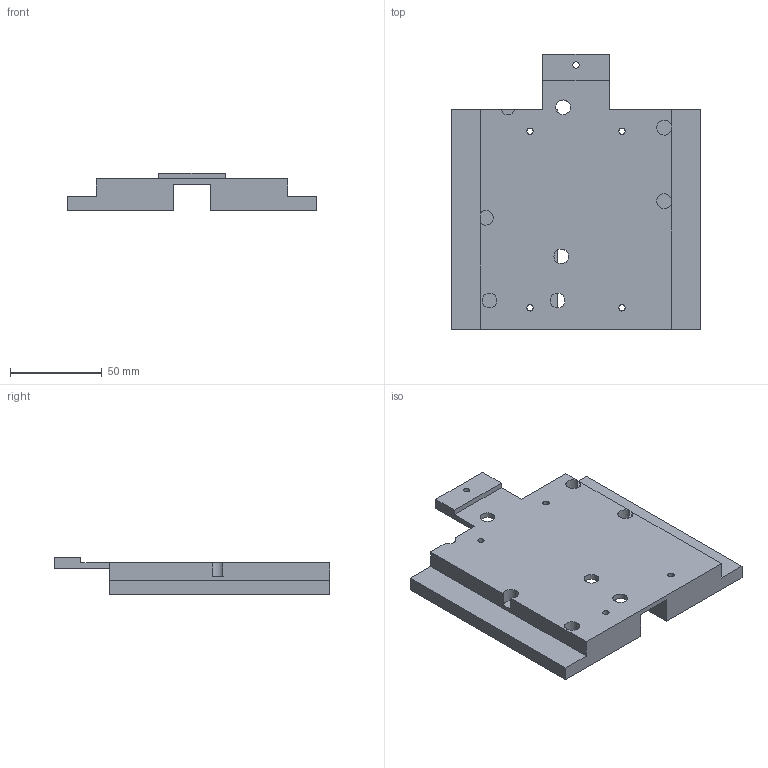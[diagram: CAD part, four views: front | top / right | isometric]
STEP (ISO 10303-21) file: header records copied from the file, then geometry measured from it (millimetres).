
FILE_DESCRIPTION(('Open CASCADE Model'),'2;1');
FILE_NAME('Open CASCADE Shape Model','2026-10-05T13:24:18',('Author'),( 'Open CASCADE'),'Open CASCADE STEP processor 7.8','Open CASCADE 7.8' ,'Unknown');
FILE_SCHEMA(('AUTOMOTIVE_DESIGN { 1 0 10303 214 1 1 1 1 }'));
Length unit declared in the file: millimetre
Products named in the file (1): Open CASCADE STEP translator 7.8 2
Bounding box: 135.6 x 149.6 x 20.4 mm (x, y, z)
Volume: 213216.8 mm3; surface area: 47676.5 mm2
Topology: 1 solids, 1 shells, 69 faces, 195 edges, 130 vertices
Faces by surface type: plane 56, cylinder 13
Full cylindrical faces by diameter (mm): 3.4 x5, 8 x4
Entity records: 4795 total; most frequent: CARTESIAN_POINT 950, DIRECTION 682, LINE 464, VECTOR 464, ORIENTED_EDGE 390, PCURVE 390, DEFINITIONAL_REPRESENTATION 390, EDGE_CURVE 195
